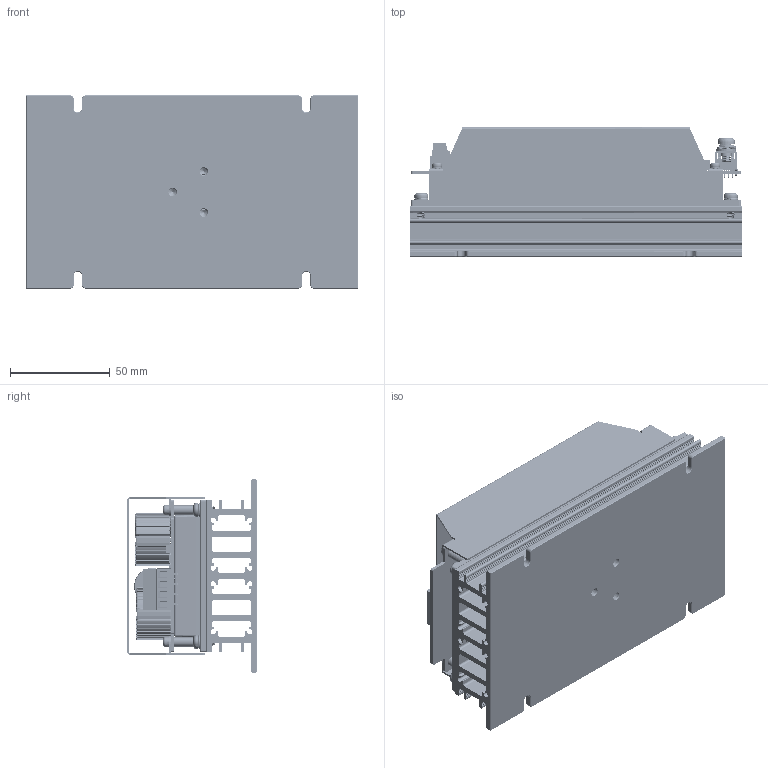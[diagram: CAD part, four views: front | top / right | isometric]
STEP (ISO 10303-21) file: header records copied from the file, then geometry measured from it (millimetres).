
FILE_DESCRIPTION (( 'STEP AP203' ), '1' );
FILE_NAME ('CHB300W-110S CMFD HS 12,24,28,48V成品圖2025.01.03.STEP', '2025-01-03T08:49:20', ( '' ), ( '' ), 'SwSTEP 2.0', 'SolidWorks 2020', '' );
FILE_SCHEMA (( 'CONFIG_CONTROL_DESIGN' ));
Products named in the file (1): CHB300W-110S CMFD HS 12,24,28,48V成品圖2025.01.03
Bounding box: 166 x 64.9 x 96.52 mm (x, y, z)
Volume: 311955.4 mm3; surface area: 212904.8 mm2
Topology: 17 solids, 39 shells, 3695 faces, 9947 edges, 6362 vertices
Faces by surface type: plane 1567, cylinder 1083, torus 607, bspline 301, cone 129, sphere 8
Full cylindrical faces by diameter (mm): 0.45 x24, 0.8 x4, 1 x13, 1.2 x5, 1.5 x2, 2 x5, 2.2 x8, 3.2 x11, 3.239 x3, 3.25 x1, 3.264 x1, 3.8 x4, 3.9 x40, 4 x9, 4.3 x4, 4.5 x4, 4.6 x4, 4.7 x4, 5 x8, 5.3 x2, 5.5 x2, 7 x4, 10 x2, 12 x1, 12.8 x1, 13 x1, 14 x2, 18.3 x2
Entity records: 205448 total; most frequent: CARTESIAN_POINT 120870, ORIENTED_EDGE 18808, DIRECTION 15760, EDGE_CURVE 9404, VERTEX_POINT 6147, AXIS2_PLACEMENT_3D 5811, EDGE_LOOP 4187, VECTOR 4138
